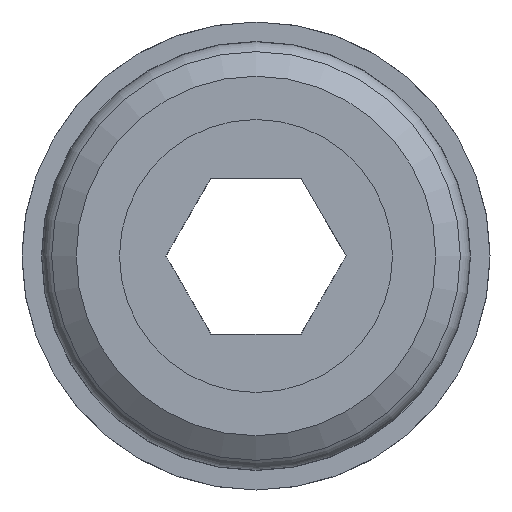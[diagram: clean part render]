
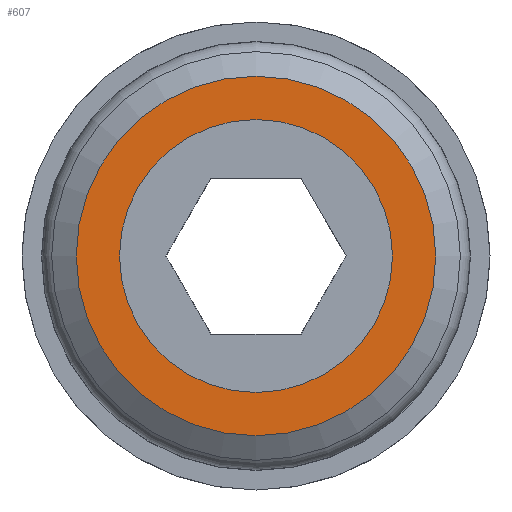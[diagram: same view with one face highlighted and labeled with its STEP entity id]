
A CAD part, front view. The second image highlights one B-rep face of the part: STEP entity #607.
In plain terms, the highlighted planar face has unit normal (0, -1, 0).
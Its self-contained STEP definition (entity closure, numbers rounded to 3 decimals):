
#102=PLANE('',#657);
#143=FACE_BOUND('',#216,.T.);
#168=FACE_OUTER_BOUND('',#215,.T.);
#215=EDGE_LOOP('',(#454));
#216=EDGE_LOOP('',(#455));
#279=CIRCLE('',#656,9.218);
#280=CIRCLE('',#658,7.);
#314=VERTEX_POINT('',#933);
#315=VERTEX_POINT('',#936);
#373=EDGE_CURVE('',#314,#314,#279,.T.);
#374=EDGE_CURVE('',#315,#315,#280,.T.);
#454=ORIENTED_EDGE('',*,*,#373,.F.);
#455=ORIENTED_EDGE('',*,*,#374,.T.);
#607=ADVANCED_FACE('',(#168,#143),#102,.T.);
#656=AXIS2_PLACEMENT_3D('',#934,#744,#745);
#657=AXIS2_PLACEMENT_3D('',#935,#746,#747);
#658=AXIS2_PLACEMENT_3D('',#937,#748,#749);
#744=DIRECTION('center_axis',(0.,1.,0.));
#745=DIRECTION('ref_axis',(1.,0.,0.));
#746=DIRECTION('center_axis',(0.,-1.,0.));
#747=DIRECTION('ref_axis',(0.,0.,-1.));
#748=DIRECTION('center_axis',(0.,1.,0.));
#749=DIRECTION('ref_axis',(1.,0.,0.));
#933=CARTESIAN_POINT('',(-9.218,0.,0.));
#934=CARTESIAN_POINT('Origin',(0.,0.,0.));
#935=CARTESIAN_POINT('Origin',(-10.478,0.,0.));
#936=CARTESIAN_POINT('',(7.,0.,0.));
#937=CARTESIAN_POINT('Origin',(0.,0.,0.));
